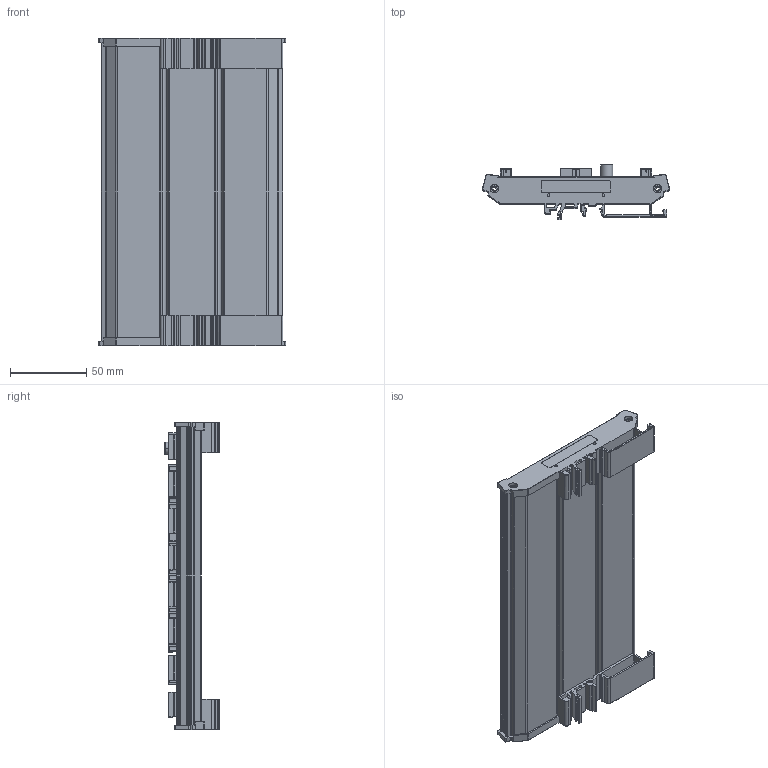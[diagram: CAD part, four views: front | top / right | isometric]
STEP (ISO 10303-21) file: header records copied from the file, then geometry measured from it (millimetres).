
FILE_DESCRIPTION (( 'STEP AP203' ), '1' );
FILE_NAME ('EA3232D.STEP', '2023-03-15T02:49:20', ( 'Microsoft' ), ( 'Microsoft' ), 'SwSTEP 2.0', 'SolidWorks 2020', '' );
FILE_SCHEMA (( 'CONFIG_CONTROL_DESIGN' ));
Products named in the file (3): EA3232D耀郪殤; EA3232D PCB°å.PART; EA3232D
Assembly tree (2 placements, depth 2):
  EA3232D
    EA3232D耀郪殤
    EA3232D PCB°å.PART
Bounding box: 122.8 x 36.18 x 202 mm (x, y, z)
Volume: 91440.9 mm3; surface area: 202475.4 mm2
Topology: 1 solids, 124 shells, 3971 faces, 14077 edges, 9933 vertices
Faces by surface type: plane 3023, cylinder 842, bspline 96, cone 8, torus 2
Entity records: 155128 total; most frequent: CARTESIAN_POINT 40227, ORIENTED_EDGE 22530, DIRECTION 21218, EDGE_CURVE 14070, VECTOR 11352, LINE 11352, VERTEX_POINT 9933, AXIS2_PLACEMENT_3D 4933
